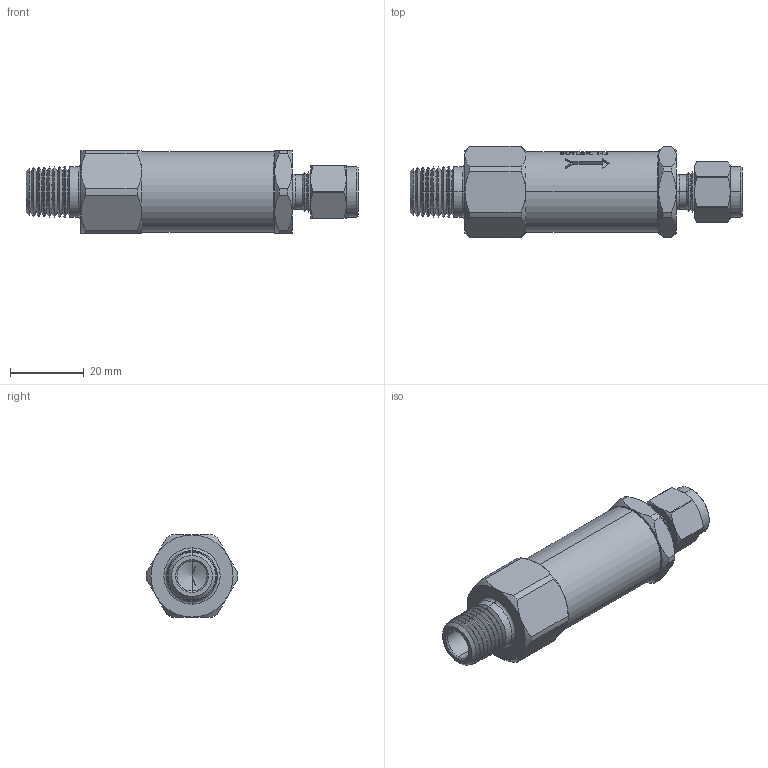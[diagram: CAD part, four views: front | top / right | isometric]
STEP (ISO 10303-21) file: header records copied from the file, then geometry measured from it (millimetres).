
FILE_DESCRIPTION (( 'STEP AP203' ), '1' );
FILE_NAME ('IRV4T.STEP', '2020-08-13T14:48:39', ( '' ), ( '' ), 'SwSTEP 2.0', 'SolidWorks 2020', '' );
FILE_SCHEMA (( 'CONFIG_CONTROL_DESIGN' ));
Length unit declared in the file: inch
Products named in the file (2): Part2^IRV4T; IRV4T
Assembly tree (1 placements, depth 2):
  IRV4T
    Part2^IRV4T
Bounding box: 89.79 x 24.76 x 22.23 mm (x, y, z)
Volume: 25878.8 mm3; surface area: 7542.6 mm2
Topology: 1 solids, 1 shells, 414 faces, 1026 edges, 642 vertices
Faces by surface type: plane 157, cone 118, bspline 70, cylinder 65, torus 4
Entity records: 17129 total; most frequent: CARTESIAN_POINT 7701, ORIENTED_EDGE 2044, DIRECTION 1726, EDGE_CURVE 1022, AXIS2_PLACEMENT_3D 666, VERTEX_POINT 642, EDGE_LOOP 446, ADVANCED_FACE 414
